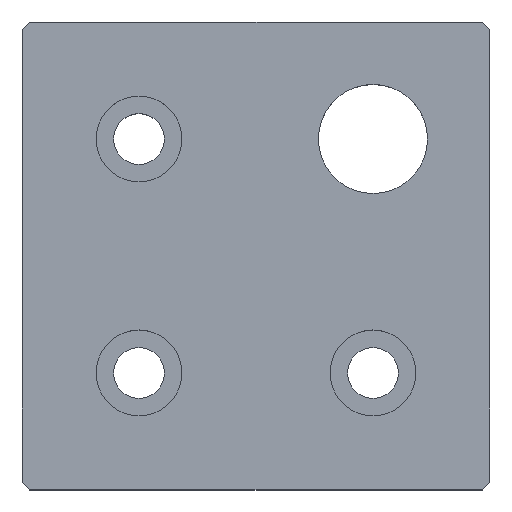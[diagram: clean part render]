
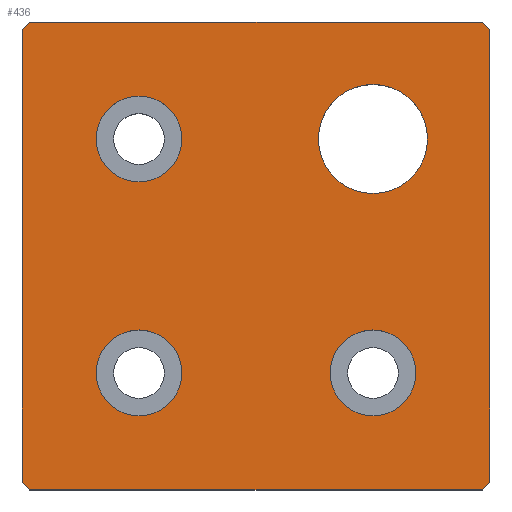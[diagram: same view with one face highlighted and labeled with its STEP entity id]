
A CAD part, top view. The second image highlights one B-rep face of the part: STEP entity #436.
In plain terms, the highlighted planar face has unit normal (0, 0, 1).
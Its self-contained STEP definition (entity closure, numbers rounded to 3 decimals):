
#2 = VERTEX_POINT ( 'NONE', #847 ) ;
#10 = FACE_BOUND ( 'NONE', #63, .T. ) ;
#11 = ORIENTED_EDGE ( 'NONE', *, *, #602, .T. ) ;
#20 = DIRECTION ( 'NONE',  ( 0., 0., 1. ) ) ;
#37 = DIRECTION ( 'NONE',  ( -1., 0., 0. ) ) ;
#48 = EDGE_CURVE ( 'NONE', #180, #771, #219, .T. ) ;
#51 = ORIENTED_EDGE ( 'NONE', *, *, #609, .F. ) ;
#53 = DIRECTION ( 'NONE',  ( 1., 0., 0. ) ) ;
#63 = EDGE_LOOP ( 'NONE', ( #161, #600 ) ) ;
#64 = CARTESIAN_POINT ( 'NONE',  ( -17.571, -50.021, 12. ) ) ;
#65 = DIRECTION ( 'NONE',  ( 1., 0., 0. ) ) ;
#66 = EDGE_CURVE ( 'NONE', #72, #319, #522, .T. ) ;
#68 = VERTEX_POINT ( 'NONE', #318 ) ;
#70 = CIRCLE ( 'NONE', #829, 5.5 ) ;
#72 = VERTEX_POINT ( 'NONE', #599 ) ;
#77 = VERTEX_POINT ( 'NONE', #533 ) ;
#80 = CARTESIAN_POINT ( 'NONE',  ( -2.571, -36.021, 12. ) ) ;
#84 = DIRECTION ( 'NONE',  ( 1., 0., 0. ) ) ;
#87 = VECTOR ( 'NONE', #444, 1000. ) ;
#97 = CARTESIAN_POINT ( 'NONE',  ( 25.204, 25.204, 12. ) ) ;
#105 = EDGE_CURVE ( 'NONE', #818, #613, #731, .T. ) ;
#106 = CARTESIAN_POINT ( 'NONE',  ( -12.775, 12.775, 12. ) ) ;
#113 = DIRECTION ( 'NONE',  ( -1., 0., 0. ) ) ;
#129 = CARTESIAN_POINT ( 'NONE',  ( 27.429, -36.021, 12. ) ) ;
#146 = DIRECTION ( 'NONE',  ( 0., 0., 1. ) ) ;
#151 = AXIS2_PLACEMENT_3D ( 'NONE', #129, #755, #819 ) ;
#153 = ORIENTED_EDGE ( 'NONE', *, *, #460, .T. ) ;
#161 = ORIENTED_EDGE ( 'NONE', *, *, #349, .F. ) ;
#180 = VERTEX_POINT ( 'NONE', #894 ) ;
#200 = VECTOR ( 'NONE', #765, 1000. ) ;
#215 = EDGE_LOOP ( 'NONE', ( #659, #523 ) ) ;
#219 = CIRCLE ( 'NONE', #329, 7. ) ;
#222 = VECTOR ( 'NONE', #881, 1000. ) ;
#226 = VERTEX_POINT ( 'NONE', #665 ) ;
#230 = VERTEX_POINT ( 'NONE', #891 ) ;
#232 = CARTESIAN_POINT ( 'NONE',  ( 2.929, -36.021, 12. ) ) ;
#240 = CARTESIAN_POINT ( 'NONE',  ( -17.571, 8.979, 12. ) ) ;
#253 = EDGE_CURVE ( 'NONE', #77, #68, #326, .T. ) ;
#254 = DIRECTION ( 'NONE',  ( 0., 0., 1. ) ) ;
#265 = CARTESIAN_POINT ( 'NONE',  ( 32.929, -36.021, 12. ) ) ;
#276 = CARTESIAN_POINT ( 'NONE',  ( -8.071, -36.021, 12. ) ) ;
#280 = AXIS2_PLACEMENT_3D ( 'NONE', #579, #850, #371 ) ;
#284 = LINE ( 'NONE', #289, #385 ) ;
#289 = CARTESIAN_POINT ( 'NONE',  ( 46.225, -46.225, 12. ) ) ;
#300 = DIRECTION ( 'NONE',  ( -0.707, -0.707, 0. ) ) ;
#315 = AXIS2_PLACEMENT_3D ( 'NONE', #661, #254, #651 ) ;
#318 = CARTESIAN_POINT ( 'NONE',  ( 41.429, -51.021, 12. ) ) ;
#319 = VERTEX_POINT ( 'NONE', #770 ) ;
#322 = ORIENTED_EDGE ( 'NONE', *, *, #706, .T. ) ;
#324 = DIRECTION ( 'NONE',  ( 0., 1., 0. ) ) ;
#326 = LINE ( 'NONE', #607, #222 ) ;
#327 = ORIENTED_EDGE ( 'NONE', *, *, #582, .T. ) ;
#329 = AXIS2_PLACEMENT_3D ( 'NONE', #868, #440, #37 ) ;
#332 = VECTOR ( 'NONE', #720, 1000. ) ;
#349 = EDGE_CURVE ( 'NONE', #497, #413, #449, .T. ) ;
#351 = AXIS2_PLACEMENT_3D ( 'NONE', #540, #468, #53 ) ;
#371 = DIRECTION ( 'NONE',  ( 1., 0., 0. ) ) ;
#382 = DIRECTION ( 'NONE',  ( 0., 0., 1. ) ) ;
#385 = VECTOR ( 'NONE', #567, 1000. ) ;
#390 = DIRECTION ( 'NONE',  ( -1., 0., 0. ) ) ;
#394 = CARTESIAN_POINT ( 'NONE',  ( 42.429, -51.021, 12. ) ) ;
#397 = CIRCLE ( 'NONE', #151, 5.5 ) ;
#405 = EDGE_LOOP ( 'NONE', ( #573, #608, #892, #721, #11, #153, #327, #617 ) ) ;
#413 = VERTEX_POINT ( 'NONE', #276 ) ;
#414 = CARTESIAN_POINT ( 'NONE',  ( 20.429, -6.021, 12. ) ) ;
#426 = CARTESIAN_POINT ( 'NONE',  ( -33.796, -33.796, 12. ) ) ;
#436 = ADVANCED_FACE ( 'NONE', ( #842, #10, #774, #867, #846 ), #793, .T. ) ;
#438 = VECTOR ( 'NONE', #390, 1000. ) ;
#440 = DIRECTION ( 'NONE',  ( 0., 0., -1. ) ) ;
#444 = DIRECTION ( 'NONE',  ( 0., -1., 0. ) ) ;
#449 = CIRCLE ( 'NONE', #676, 5.5 ) ;
#456 = LINE ( 'NONE', #106, #561 ) ;
#460 = EDGE_CURVE ( 'NONE', #2, #230, #456, .T. ) ;
#464 = CARTESIAN_POINT ( 'NONE',  ( 27.429, -6.021, 12. ) ) ;
#468 = DIRECTION ( 'NONE',  ( 0., 0., 1. ) ) ;
#472 = EDGE_CURVE ( 'NONE', #413, #497, #813, .T. ) ;
#477 = CARTESIAN_POINT ( 'NONE',  ( 41.429, 8.979, 12. ) ) ;
#497 = VERTEX_POINT ( 'NONE', #232 ) ;
#498 = CIRCLE ( 'NONE', #589, 7. ) ;
#510 = ORIENTED_EDGE ( 'NONE', *, *, #48, .T. ) ;
#515 = DIRECTION ( 'NONE',  ( 1., 0., 0. ) ) ;
#522 = CIRCLE ( 'NONE', #315, 5.5 ) ;
#523 = ORIENTED_EDGE ( 'NONE', *, *, #66, .F. ) ;
#526 = CARTESIAN_POINT ( 'NONE',  ( 0., 0., 12. ) ) ;
#533 = CARTESIAN_POINT ( 'NONE',  ( -16.571, -51.021, 12. ) ) ;
#535 = LINE ( 'NONE', #394, #630 ) ;
#540 = CARTESIAN_POINT ( 'NONE',  ( -2.571, -6.021, 12. ) ) ;
#545 = EDGE_CURVE ( 'NONE', #740, #839, #70, .T. ) ;
#561 = VECTOR ( 'NONE', #300, 1000. ) ;
#567 = DIRECTION ( 'NONE',  ( 0.707, 0.707, 0. ) ) ;
#573 = ORIENTED_EDGE ( 'NONE', *, *, #253, .T. ) ;
#579 = CARTESIAN_POINT ( 'NONE',  ( -2.571, -36.021, 12. ) ) ;
#582 = EDGE_CURVE ( 'NONE', #230, #879, #854, .T. ) ;
#589 = AXIS2_PLACEMENT_3D ( 'NONE', #464, #742, #113 ) ;
#599 = CARTESIAN_POINT ( 'NONE',  ( -8.071, -6.021, 12. ) ) ;
#600 = ORIENTED_EDGE ( 'NONE', *, *, #472, .F. ) ;
#602 = EDGE_CURVE ( 'NONE', #613, #2, #870, .T. ) ;
#607 = CARTESIAN_POINT ( 'NONE',  ( -17.571, -51.021, 12. ) ) ;
#608 = ORIENTED_EDGE ( 'NONE', *, *, #844, .T. ) ;
#609 = EDGE_CURVE ( 'NONE', #839, #740, #397, .T. ) ;
#613 = VERTEX_POINT ( 'NONE', #477 ) ;
#617 = ORIENTED_EDGE ( 'NONE', *, *, #901, .T. ) ;
#625 = LINE ( 'NONE', #426, #200 ) ;
#630 = VECTOR ( 'NONE', #324, 1000. ) ;
#633 = EDGE_CURVE ( 'NONE', #226, #818, #535, .T. ) ;
#651 = DIRECTION ( 'NONE',  ( 1., 0., 0. ) ) ;
#659 = ORIENTED_EDGE ( 'NONE', *, *, #671, .F. ) ;
#661 = CARTESIAN_POINT ( 'NONE',  ( -2.571, -6.021, 12. ) ) ;
#665 = CARTESIAN_POINT ( 'NONE',  ( 42.429, -50.021, 12. ) ) ;
#667 = CARTESIAN_POINT ( 'NONE',  ( 42.429, 8.979, 12. ) ) ;
#671 = EDGE_CURVE ( 'NONE', #319, #72, #748, .T. ) ;
#676 = AXIS2_PLACEMENT_3D ( 'NONE', #80, #146, #65 ) ;
#689 = EDGE_LOOP ( 'NONE', ( #709, #51 ) ) ;
#691 = CARTESIAN_POINT ( 'NONE',  ( 42.429, 7.979, 12. ) ) ;
#706 = EDGE_CURVE ( 'NONE', #771, #180, #498, .T. ) ;
#709 = ORIENTED_EDGE ( 'NONE', *, *, #545, .F. ) ;
#720 = DIRECTION ( 'NONE',  ( -0.707, 0.707, 0. ) ) ;
#721 = ORIENTED_EDGE ( 'NONE', *, *, #105, .T. ) ;
#731 = LINE ( 'NONE', #97, #332 ) ;
#740 = VERTEX_POINT ( 'NONE', #265 ) ;
#742 = DIRECTION ( 'NONE',  ( 0., 0., -1. ) ) ;
#748 = CIRCLE ( 'NONE', #351, 5.5 ) ;
#755 = DIRECTION ( 'NONE',  ( 0., 0., 1. ) ) ;
#765 = DIRECTION ( 'NONE',  ( 0.707, -0.707, 0. ) ) ;
#770 = CARTESIAN_POINT ( 'NONE',  ( 2.929, -6.021, 12. ) ) ;
#771 = VERTEX_POINT ( 'NONE', #414 ) ;
#774 = FACE_BOUND ( 'NONE', #689, .T. ) ;
#793 = PLANE ( 'NONE',  #876 ) ;
#813 = CIRCLE ( 'NONE', #280, 5.5 ) ;
#818 = VERTEX_POINT ( 'NONE', #691 ) ;
#819 = DIRECTION ( 'NONE',  ( 1., 0., 0. ) ) ;
#829 = AXIS2_PLACEMENT_3D ( 'NONE', #861, #20, #84 ) ;
#839 = VERTEX_POINT ( 'NONE', #896 ) ;
#842 = FACE_BOUND ( 'NONE', #215, .T. ) ;
#844 = EDGE_CURVE ( 'NONE', #68, #226, #284, .T. ) ;
#846 = FACE_OUTER_BOUND ( 'NONE', #405, .T. ) ;
#847 = CARTESIAN_POINT ( 'NONE',  ( -16.571, 8.979, 12. ) ) ;
#850 = DIRECTION ( 'NONE',  ( 0., 0., 1. ) ) ;
#854 = LINE ( 'NONE', #240, #87 ) ;
#861 = CARTESIAN_POINT ( 'NONE',  ( 27.429, -36.021, 12. ) ) ;
#867 = FACE_BOUND ( 'NONE', #882, .T. ) ;
#868 = CARTESIAN_POINT ( 'NONE',  ( 27.429, -6.021, 12. ) ) ;
#870 = LINE ( 'NONE', #667, #438 ) ;
#876 = AXIS2_PLACEMENT_3D ( 'NONE', #526, #382, #515 ) ;
#879 = VERTEX_POINT ( 'NONE', #64 ) ;
#881 = DIRECTION ( 'NONE',  ( 1., 0., 0. ) ) ;
#882 = EDGE_LOOP ( 'NONE', ( #322, #510 ) ) ;
#891 = CARTESIAN_POINT ( 'NONE',  ( -17.571, 7.979, 12. ) ) ;
#892 = ORIENTED_EDGE ( 'NONE', *, *, #633, .T. ) ;
#894 = CARTESIAN_POINT ( 'NONE',  ( 34.429, -6.021, 12. ) ) ;
#896 = CARTESIAN_POINT ( 'NONE',  ( 21.929, -36.021, 12. ) ) ;
#901 = EDGE_CURVE ( 'NONE', #879, #77, #625, .T. ) ;
